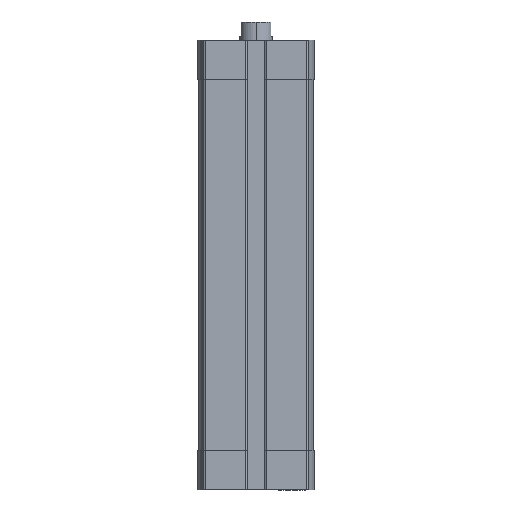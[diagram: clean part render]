
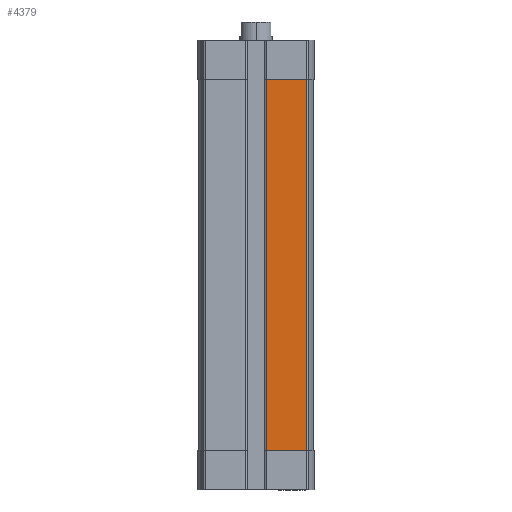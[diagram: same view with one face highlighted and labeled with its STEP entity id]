
A CAD part, left-side view. The second image highlights one B-rep face of the part: STEP entity #4379.
In plain terms, the highlighted planar face has unit normal (-1, 0, 0).
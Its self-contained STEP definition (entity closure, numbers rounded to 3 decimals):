
#64 = VERTEX_POINT ( 'NONE', #8028 ) ;
#314 = CARTESIAN_POINT ( 'NONE',  ( -17.5, -3.1, -125. ) ) ;
#330 = VECTOR ( 'NONE', #11992, 1000. ) ;
#948 = EDGE_CURVE ( 'NONE', #64, #12172, #3380, .T. ) ;
#1380 = DIRECTION ( 'NONE',  ( 0., 0., 1. ) ) ;
#1570 = EDGE_CURVE ( 'NONE', #8859, #1693, #7198, .T. ) ;
#1693 = VERTEX_POINT ( 'NONE', #8531 ) ;
#2713 = CARTESIAN_POINT ( 'NONE',  ( -17.5, -3.1, -125. ) ) ;
#3326 = CARTESIAN_POINT ( 'NONE',  ( -17.5, -3.1, -125. ) ) ;
#3380 = LINE ( 'NONE', #4005, #6081 ) ;
#3922 = VECTOR ( 'NONE', #9815, 1000. ) ;
#4005 = CARTESIAN_POINT ( 'NONE',  ( -17.5, -15.253, -125. ) ) ;
#4379 = ADVANCED_FACE ( 'NONE', ( #8239 ), #8181, .T. ) ;
#5156 = ORIENTED_EDGE ( 'NONE', *, *, #8396, .T. ) ;
#6081 = VECTOR ( 'NONE', #10107, 1000. ) ;
#6128 = DIRECTION ( 'NONE',  ( 0., 0., 1. ) ) ;
#6285 = ORIENTED_EDGE ( 'NONE', *, *, #9116, .T. ) ;
#6435 = CARTESIAN_POINT ( 'NONE',  ( -17.5, -15.253, -12. ) ) ;
#6501 = EDGE_LOOP ( 'NONE', ( #6285, #9177, #5156, #9271 ) ) ;
#6876 = CARTESIAN_POINT ( 'NONE',  ( -17.5, 0., -12. ) ) ;
#7198 = LINE ( 'NONE', #3326, #9569 ) ;
#8028 = CARTESIAN_POINT ( 'NONE',  ( -17.5, -15.253, -125. ) ) ;
#8181 = PLANE ( 'NONE',  #10327 ) ;
#8239 = FACE_OUTER_BOUND ( 'NONE', #6501, .T. ) ;
#8396 = EDGE_CURVE ( 'NONE', #12172, #1693, #11097, .T. ) ;
#8531 = CARTESIAN_POINT ( 'NONE',  ( -17.5, -3.1, -12. ) ) ;
#8859 = VERTEX_POINT ( 'NONE', #314 ) ;
#9116 = EDGE_CURVE ( 'NONE', #8859, #64, #11753, .T. ) ;
#9171 = CARTESIAN_POINT ( 'NONE',  ( -17.5, -3.1, -125. ) ) ;
#9177 = ORIENTED_EDGE ( 'NONE', *, *, #948, .T. ) ;
#9271 = ORIENTED_EDGE ( 'NONE', *, *, #1570, .F. ) ;
#9569 = VECTOR ( 'NONE', #1380, 1000. ) ;
#9815 = DIRECTION ( 'NONE',  ( 0., -1., 0. ) ) ;
#10107 = DIRECTION ( 'NONE',  ( 0., 0., 1. ) ) ;
#10327 = AXIS2_PLACEMENT_3D ( 'NONE', #9171, #12219, #6128 ) ;
#11097 = LINE ( 'NONE', #6876, #330 ) ;
#11753 = LINE ( 'NONE', #2713, #3922 ) ;
#11992 = DIRECTION ( 'NONE',  ( 0., 1., 0. ) ) ;
#12172 = VERTEX_POINT ( 'NONE', #6435 ) ;
#12219 = DIRECTION ( 'NONE',  ( -1., 0., 0. ) ) ;
